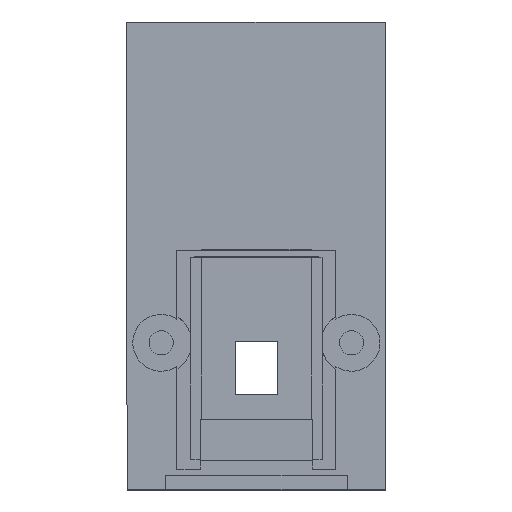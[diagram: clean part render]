
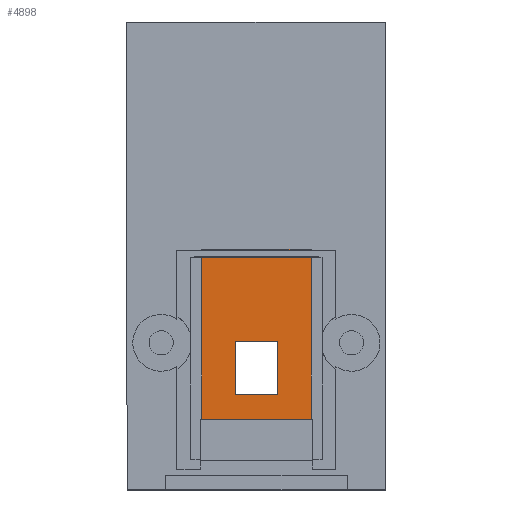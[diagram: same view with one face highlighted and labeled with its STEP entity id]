
A CAD part, top view. The second image highlights one B-rep face of the part: STEP entity #4898.
In plain terms, the highlighted planar face has unit normal (0, 0, 1).
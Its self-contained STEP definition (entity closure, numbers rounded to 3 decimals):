
#321 = PLANE('',#322);
#322 = AXIS2_PLACEMENT_3D('',#323,#324,#325);
#323 = CARTESIAN_POINT('',(-3.708,-14.316,3.5));
#324 = DIRECTION('',(1.,0.,-0.));
#325 = DIRECTION('',(0.,0.,1.));
#349 = PLANE('',#350);
#350 = AXIS2_PLACEMENT_3D('',#351,#352,#353);
#351 = CARTESIAN_POINT('',(-3.708,0.484,3.5));
#352 = DIRECTION('',(-0.,1.,0.));
#353 = DIRECTION('',(0.,0.,1.));
#377 = PLANE('',#378);
#378 = AXIS2_PLACEMENT_3D('',#379,#380,#381);
#379 = CARTESIAN_POINT('',(3.992,-14.316,3.5));
#380 = DIRECTION('',(1.,0.,-0.));
#381 = DIRECTION('',(0.,0.,1.));
#1715 = EDGE_CURVE('',#1716,#1718,#1720,.T.);
#1716 = VERTEX_POINT('',#1717);
#1717 = CARTESIAN_POINT('',(-3.708,-11.496,3.5));
#1718 = VERTEX_POINT('',#1719);
#1719 = CARTESIAN_POINT('',(-3.708,0.484,3.5));
#1720 = SURFACE_CURVE('',#1721,(#1725,#1732),.PCURVE_S1.);
#1721 = LINE('',#1722,#1723);
#1722 = CARTESIAN_POINT('',(-3.708,-14.316,3.5));
#1723 = VECTOR('',#1724,1.);
#1724 = DIRECTION('',(-0.,1.,0.));
#1725 = PCURVE('',#321,#1726);
#1726 = DEFINITIONAL_REPRESENTATION('',(#1727),#1731);
#1727 = LINE('',#1728,#1729);
#1728 = CARTESIAN_POINT('',(0.,0.));
#1729 = VECTOR('',#1730,1.);
#1730 = DIRECTION('',(0.,-1.));
#1731 = ( GEOMETRIC_REPRESENTATION_CONTEXT(2) 
PARAMETRIC_REPRESENTATION_CONTEXT() REPRESENTATION_CONTEXT('2D SPACE',''
  ) );
#1732 = PCURVE('',#1733,#1738);
#1733 = PLANE('',#1734);
#1734 = AXIS2_PLACEMENT_3D('',#1735,#1736,#1737);
#1735 = CARTESIAN_POINT('',(-3.708,-14.316,3.5));
#1736 = DIRECTION('',(0.,0.,1.));
#1737 = DIRECTION('',(1.,0.,-0.));
#1738 = DEFINITIONAL_REPRESENTATION('',(#1739),#1743);
#1739 = LINE('',#1740,#1741);
#1740 = CARTESIAN_POINT('',(0.,0.));
#1741 = VECTOR('',#1742,1.);
#1742 = DIRECTION('',(0.,1.));
#1743 = ( GEOMETRIC_REPRESENTATION_CONTEXT(2) 
PARAMETRIC_REPRESENTATION_CONTEXT() REPRESENTATION_CONTEXT('2D SPACE',''
  ) );
#1861 = PLANE('',#1862);
#1862 = AXIS2_PLACEMENT_3D('',#1863,#1864,#1865);
#1863 = CARTESIAN_POINT('',(-3.808,-11.496,3.2));
#1864 = DIRECTION('',(-0.,1.,0.));
#1865 = DIRECTION('',(0.,0.,1.));
#1981 = VERTEX_POINT('',#1982);
#1982 = CARTESIAN_POINT('',(3.992,0.484,3.5));
#2003 = EDGE_CURVE('',#1718,#1981,#2004,.T.);
#2004 = SURFACE_CURVE('',#2005,(#2009,#2016),.PCURVE_S1.);
#2005 = LINE('',#2006,#2007);
#2006 = CARTESIAN_POINT('',(-3.708,0.484,3.5));
#2007 = VECTOR('',#2008,1.);
#2008 = DIRECTION('',(1.,0.,-0.));
#2009 = PCURVE('',#349,#2010);
#2010 = DEFINITIONAL_REPRESENTATION('',(#2011),#2015);
#2011 = LINE('',#2012,#2013);
#2012 = CARTESIAN_POINT('',(0.,0.));
#2013 = VECTOR('',#2014,1.);
#2014 = DIRECTION('',(0.,1.));
#2015 = ( GEOMETRIC_REPRESENTATION_CONTEXT(2) 
PARAMETRIC_REPRESENTATION_CONTEXT() REPRESENTATION_CONTEXT('2D SPACE',''
  ) );
#2016 = PCURVE('',#1733,#2017);
#2017 = DEFINITIONAL_REPRESENTATION('',(#2018),#2022);
#2018 = LINE('',#2019,#2020);
#2019 = CARTESIAN_POINT('',(0.,14.8));
#2020 = VECTOR('',#2021,1.);
#2021 = DIRECTION('',(1.,0.));
#2022 = ( GEOMETRIC_REPRESENTATION_CONTEXT(2) 
PARAMETRIC_REPRESENTATION_CONTEXT() REPRESENTATION_CONTEXT('2D SPACE',''
  ) );
#2079 = VERTEX_POINT('',#2080);
#2080 = CARTESIAN_POINT('',(3.992,-11.496,3.5));
#2103 = EDGE_CURVE('',#2079,#1981,#2104,.T.);
#2104 = SURFACE_CURVE('',#2105,(#2109,#2116),.PCURVE_S1.);
#2105 = LINE('',#2106,#2107);
#2106 = CARTESIAN_POINT('',(3.992,-14.316,3.5));
#2107 = VECTOR('',#2108,1.);
#2108 = DIRECTION('',(-0.,1.,0.));
#2109 = PCURVE('',#377,#2110);
#2110 = DEFINITIONAL_REPRESENTATION('',(#2111),#2115);
#2111 = LINE('',#2112,#2113);
#2112 = CARTESIAN_POINT('',(0.,0.));
#2113 = VECTOR('',#2114,1.);
#2114 = DIRECTION('',(0.,-1.));
#2115 = ( GEOMETRIC_REPRESENTATION_CONTEXT(2) 
PARAMETRIC_REPRESENTATION_CONTEXT() REPRESENTATION_CONTEXT('2D SPACE',''
  ) );
#2116 = PCURVE('',#1733,#2117);
#2117 = DEFINITIONAL_REPRESENTATION('',(#2118),#2122);
#2118 = LINE('',#2119,#2120);
#2119 = CARTESIAN_POINT('',(7.7,0.));
#2120 = VECTOR('',#2121,1.);
#2121 = DIRECTION('',(0.,1.));
#2122 = ( GEOMETRIC_REPRESENTATION_CONTEXT(2) 
PARAMETRIC_REPRESENTATION_CONTEXT() REPRESENTATION_CONTEXT('2D SPACE',''
  ) );
#4898 = ADVANCED_FACE('',(#4899,#4925),#1733,.T.);
#4899 = FACE_BOUND('',#4900,.T.);
#4900 = EDGE_LOOP('',(#4901,#4902,#4923,#4924));
#4901 = ORIENTED_EDGE('',*,*,#1715,.F.);
#4902 = ORIENTED_EDGE('',*,*,#4903,.F.);
#4903 = EDGE_CURVE('',#2079,#1716,#4904,.T.);
#4904 = SURFACE_CURVE('',#4905,(#4909,#4916),.PCURVE_S1.);
#4905 = LINE('',#4906,#4907);
#4906 = CARTESIAN_POINT('',(-3.758,-11.496,3.5));
#4907 = VECTOR('',#4908,1.);
#4908 = DIRECTION('',(-1.,-0.,0.));
#4909 = PCURVE('',#1733,#4910);
#4910 = DEFINITIONAL_REPRESENTATION('',(#4911),#4915);
#4911 = LINE('',#4912,#4913);
#4912 = CARTESIAN_POINT('',(-0.05,2.82));
#4913 = VECTOR('',#4914,1.);
#4914 = DIRECTION('',(-1.,0.));
#4915 = ( GEOMETRIC_REPRESENTATION_CONTEXT(2) 
PARAMETRIC_REPRESENTATION_CONTEXT() REPRESENTATION_CONTEXT('2D SPACE',''
  ) );
#4916 = PCURVE('',#1861,#4917);
#4917 = DEFINITIONAL_REPRESENTATION('',(#4918),#4922);
#4918 = LINE('',#4919,#4920);
#4919 = CARTESIAN_POINT('',(0.3,0.05));
#4920 = VECTOR('',#4921,1.);
#4921 = DIRECTION('',(0.,-1.));
#4922 = ( GEOMETRIC_REPRESENTATION_CONTEXT(2) 
PARAMETRIC_REPRESENTATION_CONTEXT() REPRESENTATION_CONTEXT('2D SPACE',''
  ) );
#4923 = ORIENTED_EDGE('',*,*,#2103,.T.);
#4924 = ORIENTED_EDGE('',*,*,#2003,.F.);
#4925 = FACE_BOUND('',#4926,.T.);
#4926 = EDGE_LOOP('',(#4927,#4957,#4985,#5013));
#4927 = ORIENTED_EDGE('',*,*,#4928,.T.);
#4928 = EDGE_CURVE('',#4929,#4931,#4933,.T.);
#4929 = VERTEX_POINT('',#4930);
#4930 = CARTESIAN_POINT('',(1.642,-9.716,3.5));
#4931 = VERTEX_POINT('',#4932);
#4932 = CARTESIAN_POINT('',(-1.358,-9.716,3.5));
#4933 = SURFACE_CURVE('',#4934,(#4938,#4945),.PCURVE_S1.);
#4934 = LINE('',#4935,#4936);
#4935 = CARTESIAN_POINT('',(-2.533,-9.716,3.5));
#4936 = VECTOR('',#4937,1.);
#4937 = DIRECTION('',(-1.,-0.,0.));
#4938 = PCURVE('',#1733,#4939);
#4939 = DEFINITIONAL_REPRESENTATION('',(#4940),#4944);
#4940 = LINE('',#4941,#4942);
#4941 = CARTESIAN_POINT('',(1.175,4.6));
#4942 = VECTOR('',#4943,1.);
#4943 = DIRECTION('',(-1.,0.));
#4944 = ( GEOMETRIC_REPRESENTATION_CONTEXT(2) 
PARAMETRIC_REPRESENTATION_CONTEXT() REPRESENTATION_CONTEXT('2D SPACE',''
  ) );
#4945 = PCURVE('',#4946,#4951);
#4946 = PLANE('',#4947);
#4947 = AXIS2_PLACEMENT_3D('',#4948,#4949,#4950);
#4948 = CARTESIAN_POINT('',(-1.358,-9.716,3.2));
#4949 = DIRECTION('',(-0.,1.,0.));
#4950 = DIRECTION('',(0.,0.,1.));
#4951 = DEFINITIONAL_REPRESENTATION('',(#4952),#4956);
#4952 = LINE('',#4953,#4954);
#4953 = CARTESIAN_POINT('',(0.3,-1.175));
#4954 = VECTOR('',#4955,1.);
#4955 = DIRECTION('',(0.,-1.));
#4956 = ( GEOMETRIC_REPRESENTATION_CONTEXT(2) 
PARAMETRIC_REPRESENTATION_CONTEXT() REPRESENTATION_CONTEXT('2D SPACE',''
  ) );
#4957 = ORIENTED_EDGE('',*,*,#4958,.T.);
#4958 = EDGE_CURVE('',#4931,#4959,#4961,.T.);
#4959 = VERTEX_POINT('',#4960);
#4960 = CARTESIAN_POINT('',(-1.358,-6.016,3.5));
#4961 = SURFACE_CURVE('',#4962,(#4966,#4973),.PCURVE_S1.);
#4962 = LINE('',#4963,#4964);
#4963 = CARTESIAN_POINT('',(-1.358,-12.016,3.5));
#4964 = VECTOR('',#4965,1.);
#4965 = DIRECTION('',(-0.,1.,0.));
#4966 = PCURVE('',#1733,#4967);
#4967 = DEFINITIONAL_REPRESENTATION('',(#4968),#4972);
#4968 = LINE('',#4969,#4970);
#4969 = CARTESIAN_POINT('',(2.35,2.3));
#4970 = VECTOR('',#4971,1.);
#4971 = DIRECTION('',(0.,1.));
#4972 = ( GEOMETRIC_REPRESENTATION_CONTEXT(2) 
PARAMETRIC_REPRESENTATION_CONTEXT() REPRESENTATION_CONTEXT('2D SPACE',''
  ) );
#4973 = PCURVE('',#4974,#4979);
#4974 = PLANE('',#4975);
#4975 = AXIS2_PLACEMENT_3D('',#4976,#4977,#4978);
#4976 = CARTESIAN_POINT('',(-1.358,-9.716,3.2));
#4977 = DIRECTION('',(1.,0.,-0.));
#4978 = DIRECTION('',(0.,0.,1.));
#4979 = DEFINITIONAL_REPRESENTATION('',(#4980),#4984);
#4980 = LINE('',#4981,#4982);
#4981 = CARTESIAN_POINT('',(0.3,2.3));
#4982 = VECTOR('',#4983,1.);
#4983 = DIRECTION('',(0.,-1.));
#4984 = ( GEOMETRIC_REPRESENTATION_CONTEXT(2) 
PARAMETRIC_REPRESENTATION_CONTEXT() REPRESENTATION_CONTEXT('2D SPACE',''
  ) );
#4985 = ORIENTED_EDGE('',*,*,#4986,.F.);
#4986 = EDGE_CURVE('',#4987,#4959,#4989,.T.);
#4987 = VERTEX_POINT('',#4988);
#4988 = CARTESIAN_POINT('',(1.642,-6.016,3.5));
#4989 = SURFACE_CURVE('',#4990,(#4994,#5001),.PCURVE_S1.);
#4990 = LINE('',#4991,#4992);
#4991 = CARTESIAN_POINT('',(-2.533,-6.016,3.5));
#4992 = VECTOR('',#4993,1.);
#4993 = DIRECTION('',(-1.,-0.,0.));
#4994 = PCURVE('',#1733,#4995);
#4995 = DEFINITIONAL_REPRESENTATION('',(#4996),#5000);
#4996 = LINE('',#4997,#4998);
#4997 = CARTESIAN_POINT('',(1.175,8.3));
#4998 = VECTOR('',#4999,1.);
#4999 = DIRECTION('',(-1.,0.));
#5000 = ( GEOMETRIC_REPRESENTATION_CONTEXT(2) 
PARAMETRIC_REPRESENTATION_CONTEXT() REPRESENTATION_CONTEXT('2D SPACE',''
  ) );
#5001 = PCURVE('',#5002,#5007);
#5002 = PLANE('',#5003);
#5003 = AXIS2_PLACEMENT_3D('',#5004,#5005,#5006);
#5004 = CARTESIAN_POINT('',(-1.358,-6.016,3.2));
#5005 = DIRECTION('',(-0.,1.,0.));
#5006 = DIRECTION('',(0.,0.,1.));
#5007 = DEFINITIONAL_REPRESENTATION('',(#5008),#5012);
#5008 = LINE('',#5009,#5010);
#5009 = CARTESIAN_POINT('',(0.3,-1.175));
#5010 = VECTOR('',#5011,1.);
#5011 = DIRECTION('',(0.,-1.));
#5012 = ( GEOMETRIC_REPRESENTATION_CONTEXT(2) 
PARAMETRIC_REPRESENTATION_CONTEXT() REPRESENTATION_CONTEXT('2D SPACE',''
  ) );
#5013 = ORIENTED_EDGE('',*,*,#5014,.F.);
#5014 = EDGE_CURVE('',#4929,#4987,#5015,.T.);
#5015 = SURFACE_CURVE('',#5016,(#5020,#5027),.PCURVE_S1.);
#5016 = LINE('',#5017,#5018);
#5017 = CARTESIAN_POINT('',(1.642,-12.016,3.5));
#5018 = VECTOR('',#5019,1.);
#5019 = DIRECTION('',(-0.,1.,0.));
#5020 = PCURVE('',#1733,#5021);
#5021 = DEFINITIONAL_REPRESENTATION('',(#5022),#5026);
#5022 = LINE('',#5023,#5024);
#5023 = CARTESIAN_POINT('',(5.35,2.3));
#5024 = VECTOR('',#5025,1.);
#5025 = DIRECTION('',(0.,1.));
#5026 = ( GEOMETRIC_REPRESENTATION_CONTEXT(2) 
PARAMETRIC_REPRESENTATION_CONTEXT() REPRESENTATION_CONTEXT('2D SPACE',''
  ) );
#5027 = PCURVE('',#5028,#5033);
#5028 = PLANE('',#5029);
#5029 = AXIS2_PLACEMENT_3D('',#5030,#5031,#5032);
#5030 = CARTESIAN_POINT('',(1.642,-9.716,3.2));
#5031 = DIRECTION('',(1.,0.,-0.));
#5032 = DIRECTION('',(0.,0.,1.));
#5033 = DEFINITIONAL_REPRESENTATION('',(#5034),#5038);
#5034 = LINE('',#5035,#5036);
#5035 = CARTESIAN_POINT('',(0.3,2.3));
#5036 = VECTOR('',#5037,1.);
#5037 = DIRECTION('',(0.,-1.));
#5038 = ( GEOMETRIC_REPRESENTATION_CONTEXT(2) 
PARAMETRIC_REPRESENTATION_CONTEXT() REPRESENTATION_CONTEXT('2D SPACE',''
  ) );
